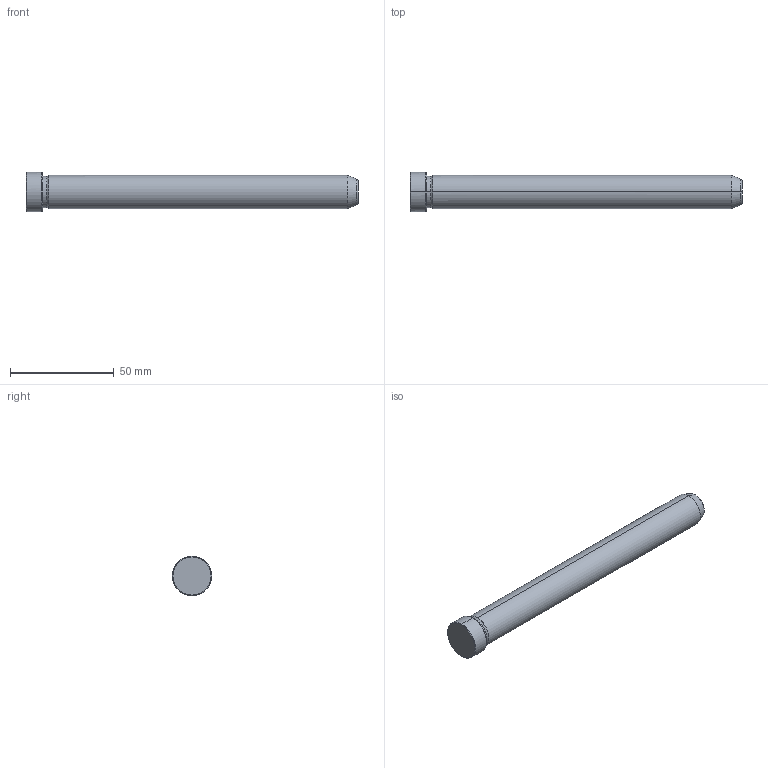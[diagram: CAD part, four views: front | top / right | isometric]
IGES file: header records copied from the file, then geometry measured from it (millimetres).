
Start section: START RECORD GO HERE.
Global section: file name: 549-16X160.igs; native system: DASSAULT SYSTEMES CATIA V5 R20 - www.3ds.com; preprocessor: CATIA Version 5 Release 20 ; author: Utente; organization: NB04-ASUS; date: 20211211.103140; units: millimetre
Bounding box: 160 x 19 x 19 mm (x, y, z)
Surface area: 8577.4 mm2 (no closed solid volume)
Topology: 0 solids, 0 shells, 19 faces, 112 edges, 112 vertices
Faces by surface type: revolution 16, plane 3
